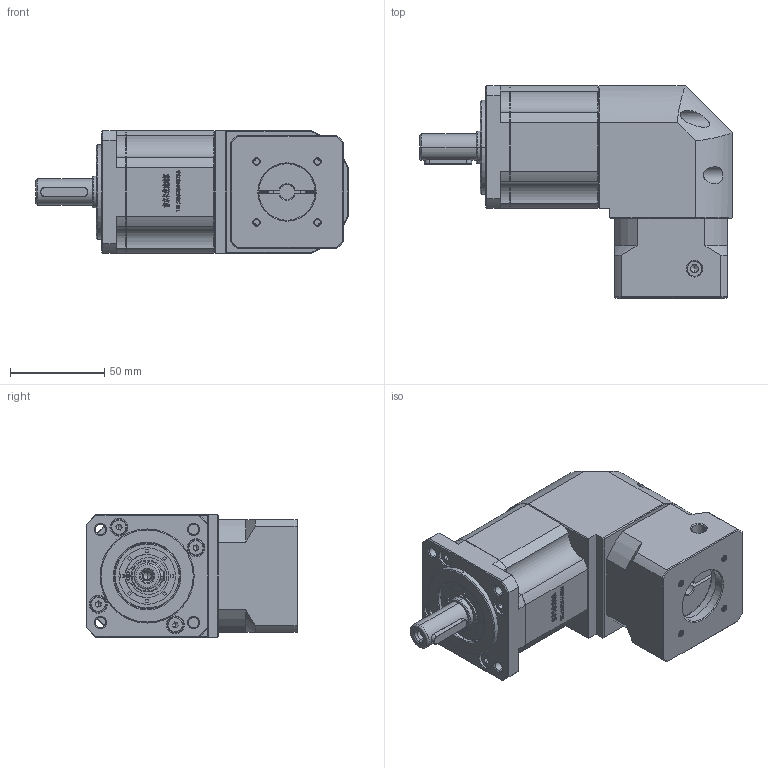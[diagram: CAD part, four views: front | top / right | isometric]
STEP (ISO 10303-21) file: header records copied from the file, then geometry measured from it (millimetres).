
FILE_DESCRIPTION (( 'STEP AP214' ), '1' );
FILE_NAME ('ZBR60-D14-L2-8-30-46-M4.STEP', '2022-04-19T08:15:34', ( '' ), ( 'Microsoft' ), 'SwSTEP 2.0', 'SolidWorks 2016', '' );
FILE_SCHEMA (( 'AUTOMOTIVE_DESIGN' ));
Length unit declared in the file: millimetre
Products named in the file (1): ZBR60-D14-L2-8-30-46-M4
Bounding box: 166 x 112.7 x 65 mm (x, y, z)
Volume: 593642.2 mm3; surface area: 83315 mm2
Topology: 5 solids, 5 shells, 2887 faces, 7847 edges, 5101 vertices
Faces by surface type: plane 1470, bspline 643, cylinder 416, cone 324, torus 34
Entity records: 176418 total; most frequent: CARTESIAN_POINT 76614, ORIENTED_EDGE 15650, DIRECTION 11684, EDGE_CURVE 7825, VERTEX_POINT 5101, VECTOR 5036, LINE 5036, AXIS2_PLACEMENT_3D 3324
